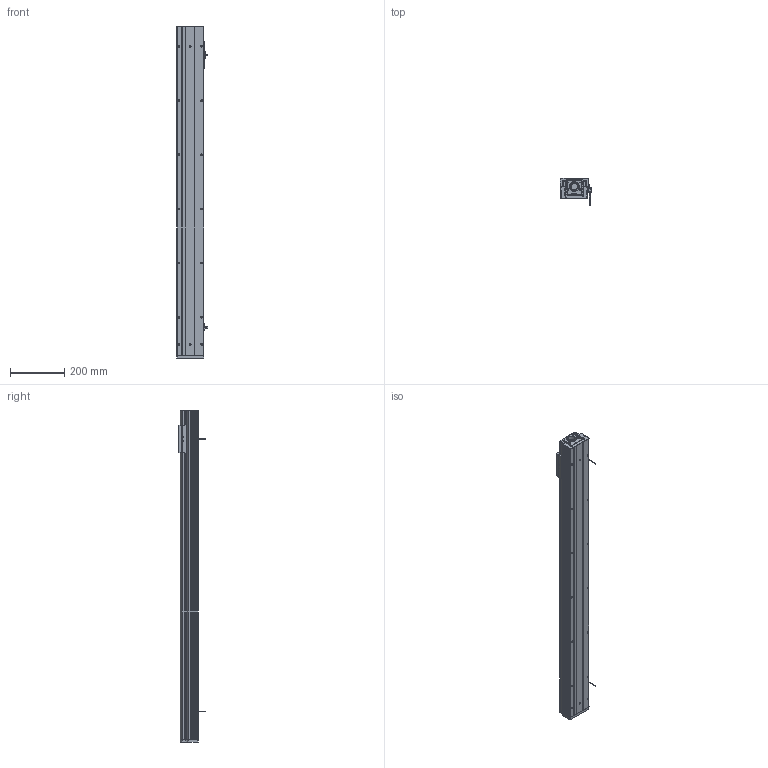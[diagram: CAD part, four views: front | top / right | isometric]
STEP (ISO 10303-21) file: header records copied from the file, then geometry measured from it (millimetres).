
FILE_DESCRIPTION (( 'STEP AP203' ), '1' );
FILE_NAME ('CTHM10-S1000-O-BC - 副本.STEP', '2019-12-18T01:09:08', ( '微软用户' ), ( '微软中国' ), 'SwSTEP 2.0', 'SolidWorks 2017', '' );
FILE_SCHEMA (( 'CONFIG_CONTROL_DESIGN' ));
Length unit declared in the file: millimetre
Products named in the file (11): CTHM10固定侧自制轴承座; CTHM10裔啣(100); CTHM10傷裔(祥結裔啣); CTHM10綴傷裔; 覜茼え; 遣喳蝶15x12x8; CTHM10菁釱(200); EE-SX672-BR; CTHM10痄雄釱(党蜊); CTHM10-S1000-O-BC - 萵掛; CTHM10盓傅耜
Assembly tree (14 placements, depth 2):
  CTHM10-S1000-O-BC - 萵掛
    CTHM10菁釱(200)
    CTHM10痄雄釱(党蜊)
    CTHM10盓傅耜
    CTHM10固定侧自制轴承座
    CTHM10裔啣(100)
    CTHM10傷裔(祥結裔啣)
    CTHM10綴傷裔
    覜茼え
    遣喳蝶15x12x8  x4
    EE-SX672-BR  x2
Bounding box: 114.7 x 100.2 x 1225 mm (x, y, z)
Volume: 3054697 mm3; surface area: 1020361.1 mm2
Topology: 14 solids, 14 shells, 970 faces, 2752 edges, 1796 vertices
Faces by surface type: cylinder 525, plane 401, cone 44
Entity records: 32951 total; most frequent: CARTESIAN_POINT 7951, DIRECTION 5030, ORIENTED_EDGE 4976, EDGE_CURVE 2488, AXIS2_PLACEMENT_3D 1849, VERTEX_POINT 1644, LINE 1332, VECTOR 1332
